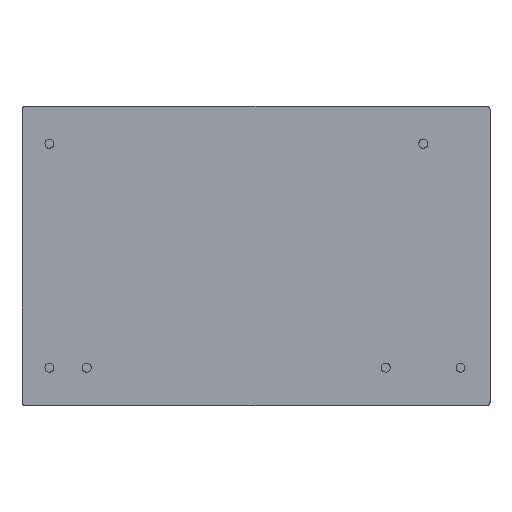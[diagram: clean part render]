
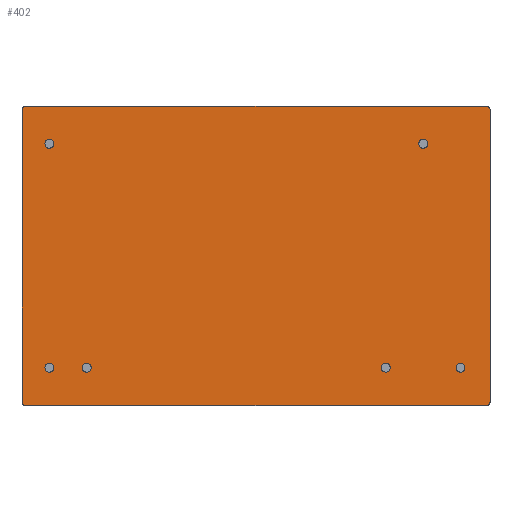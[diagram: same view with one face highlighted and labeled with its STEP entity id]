
A CAD part, top view. The second image highlights one B-rep face of the part: STEP entity #402.
In plain terms, the highlighted planar face has unit normal (0, 0, 1).
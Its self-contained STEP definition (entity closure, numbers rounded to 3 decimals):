
#21=FACE_BOUND('',#159,.T.);
#22=FACE_BOUND('',#160,.T.);
#23=FACE_BOUND('',#161,.T.);
#24=FACE_BOUND('',#162,.T.);
#25=FACE_BOUND('',#163,.T.);
#26=FACE_BOUND('',#164,.T.);
#38=PLANE('',#462);
#55=LINE('',#667,#75);
#56=LINE('',#669,#76);
#57=LINE('',#708,#77);
#58=LINE('',#710,#78);
#75=VECTOR('',#539,19.9);
#76=VECTOR('',#542,31.4);
#77=VECTOR('',#595,19.9);
#78=VECTOR('',#598,31.4);
#122=FACE_OUTER_BOUND('',#158,.T.);
#158=EDGE_LOOP('',(#355,#356,#357,#358,#359,#360,#361,#362));
#159=EDGE_LOOP('',(#363));
#160=EDGE_LOOP('',(#364));
#161=EDGE_LOOP('',(#365));
#162=EDGE_LOOP('',(#366));
#163=EDGE_LOOP('',(#367));
#164=EDGE_LOOP('',(#368));
#168=CIRCLE('',#410,0.2);
#172=CIRCLE('',#416,0.2);
#176=CIRCLE('',#422,0.2);
#180=CIRCLE('',#429,0.2);
#182=CIRCLE('',#438,0.3);
#184=CIRCLE('',#442,0.3);
#186=CIRCLE('',#446,0.3);
#188=CIRCLE('',#450,0.3);
#190=CIRCLE('',#454,0.3);
#192=CIRCLE('',#458,0.3);
#196=VERTEX_POINT('',#610);
#197=VERTEX_POINT('',#611);
#201=VERTEX_POINT('',#623);
#202=VERTEX_POINT('',#624);
#206=VERTEX_POINT('',#636);
#207=VERTEX_POINT('',#637);
#211=VERTEX_POINT('',#652);
#212=VERTEX_POINT('',#653);
#214=VERTEX_POINT('',#674);
#216=VERTEX_POINT('',#680);
#218=VERTEX_POINT('',#686);
#220=VERTEX_POINT('',#692);
#222=VERTEX_POINT('',#698);
#224=VERTEX_POINT('',#704);
#228=EDGE_CURVE('',#196,#197,#168,.T.);
#234=EDGE_CURVE('',#201,#202,#172,.T.);
#240=EDGE_CURVE('',#206,#207,#176,.T.);
#248=EDGE_CURVE('',#211,#212,#180,.T.);
#257=EDGE_CURVE('',#207,#196,#55,.T.);
#258=EDGE_CURVE('',#212,#206,#56,.T.);
#260=EDGE_CURVE('',#214,#214,#182,.T.);
#262=EDGE_CURVE('',#216,#216,#184,.T.);
#264=EDGE_CURVE('',#218,#218,#186,.T.);
#266=EDGE_CURVE('',#220,#220,#188,.T.);
#268=EDGE_CURVE('',#222,#222,#190,.T.);
#270=EDGE_CURVE('',#224,#224,#192,.T.);
#271=EDGE_CURVE('',#202,#211,#57,.T.);
#272=EDGE_CURVE('',#197,#201,#58,.T.);
#355=ORIENTED_EDGE('',*,*,#228,.F.);
#356=ORIENTED_EDGE('',*,*,#257,.F.);
#357=ORIENTED_EDGE('',*,*,#240,.F.);
#358=ORIENTED_EDGE('',*,*,#258,.F.);
#359=ORIENTED_EDGE('',*,*,#248,.F.);
#360=ORIENTED_EDGE('',*,*,#271,.F.);
#361=ORIENTED_EDGE('',*,*,#234,.F.);
#362=ORIENTED_EDGE('',*,*,#272,.F.);
#363=ORIENTED_EDGE('',*,*,#260,.T.);
#364=ORIENTED_EDGE('',*,*,#262,.T.);
#365=ORIENTED_EDGE('',*,*,#264,.T.);
#366=ORIENTED_EDGE('',*,*,#266,.T.);
#367=ORIENTED_EDGE('',*,*,#268,.T.);
#368=ORIENTED_EDGE('',*,*,#270,.T.);
#402=ADVANCED_FACE('',(#122,#21,#22,#23,#24,#25,#26),#38,.T.);
#410=AXIS2_PLACEMENT_3D('',#612,#475,#476);
#416=AXIS2_PLACEMENT_3D('',#625,#489,#490);
#422=AXIS2_PLACEMENT_3D('',#638,#503,#504);
#429=AXIS2_PLACEMENT_3D('',#654,#521,#522);
#438=AXIS2_PLACEMENT_3D('',#675,#549,#550);
#442=AXIS2_PLACEMENT_3D('',#681,#557,#558);
#446=AXIS2_PLACEMENT_3D('',#687,#565,#566);
#450=AXIS2_PLACEMENT_3D('',#693,#573,#574);
#454=AXIS2_PLACEMENT_3D('',#699,#581,#582);
#458=AXIS2_PLACEMENT_3D('',#705,#589,#590);
#462=AXIS2_PLACEMENT_3D('',#711,#599,#600);
#475=DIRECTION('center_axis',(0.,0.,-1.));
#476=DIRECTION('ref_axis',(-0.707,0.707,0.));
#489=DIRECTION('center_axis',(0.,0.,-1.));
#490=DIRECTION('ref_axis',(0.707,0.707,0.));
#503=DIRECTION('center_axis',(0.,0.,-1.));
#504=DIRECTION('ref_axis',(-0.707,-0.707,0.));
#521=DIRECTION('center_axis',(0.,0.,-1.));
#522=DIRECTION('ref_axis',(0.707,-0.707,0.));
#539=DIRECTION('',(0.,1.,0.));
#542=DIRECTION('',(-1.,0.,0.));
#549=DIRECTION('center_axis',(0.,0.,-1.));
#550=DIRECTION('ref_axis',(-1.,0.,0.));
#557=DIRECTION('center_axis',(0.,0.,-1.));
#558=DIRECTION('ref_axis',(-1.,0.,0.));
#565=DIRECTION('center_axis',(0.,0.,-1.));
#566=DIRECTION('ref_axis',(-1.,0.,0.));
#573=DIRECTION('center_axis',(0.,0.,-1.));
#574=DIRECTION('ref_axis',(-1.,0.,0.));
#581=DIRECTION('center_axis',(0.,0.,-1.));
#582=DIRECTION('ref_axis',(-1.,0.,0.));
#589=DIRECTION('center_axis',(0.,0.,-1.));
#590=DIRECTION('ref_axis',(-1.,0.,0.));
#595=DIRECTION('',(0.,-1.,0.));
#598=DIRECTION('',(1.,0.,0.));
#599=DIRECTION('center_axis',(0.,0.,1.));
#600=DIRECTION('ref_axis',(1.,0.,0.));
#610=CARTESIAN_POINT('',(-15.9,9.95,0.));
#611=CARTESIAN_POINT('',(-15.7,10.15,0.));
#612=CARTESIAN_POINT('Origin',(-15.7,9.95,0.));
#623=CARTESIAN_POINT('',(15.7,10.15,0.));
#624=CARTESIAN_POINT('',(15.9,9.95,0.));
#625=CARTESIAN_POINT('Origin',(15.7,9.95,0.));
#636=CARTESIAN_POINT('',(-15.7,-10.15,0.));
#637=CARTESIAN_POINT('',(-15.9,-9.95,0.));
#638=CARTESIAN_POINT('Origin',(-15.7,-9.95,0.));
#652=CARTESIAN_POINT('',(15.9,-9.95,0.));
#653=CARTESIAN_POINT('',(15.7,-10.15,0.));
#654=CARTESIAN_POINT('Origin',(15.7,-9.95,0.));
#667=CARTESIAN_POINT('',(-15.9,-10.15,0.));
#669=CARTESIAN_POINT('',(15.9,-10.15,0.));
#674=CARTESIAN_POINT('',(14.2,-7.61,0.));
#675=CARTESIAN_POINT('Origin',(13.9,-7.61,0.));
#680=CARTESIAN_POINT('',(-13.74,7.61,0.));
#681=CARTESIAN_POINT('Origin',(-14.04,7.61,0.));
#686=CARTESIAN_POINT('',(-13.74,-7.61,0.));
#687=CARTESIAN_POINT('Origin',(-14.04,-7.61,0.));
#692=CARTESIAN_POINT('',(-11.2,-7.61,0.));
#693=CARTESIAN_POINT('Origin',(-11.5,-7.61,0.));
#698=CARTESIAN_POINT('',(9.12,-7.61,0.));
#699=CARTESIAN_POINT('Origin',(8.82,-7.61,0.));
#704=CARTESIAN_POINT('',(11.66,7.61,0.));
#705=CARTESIAN_POINT('Origin',(11.36,7.61,0.));
#708=CARTESIAN_POINT('',(15.9,10.15,0.));
#710=CARTESIAN_POINT('',(-15.9,10.15,0.));
#711=CARTESIAN_POINT('Origin',(0.,0.,0.));
